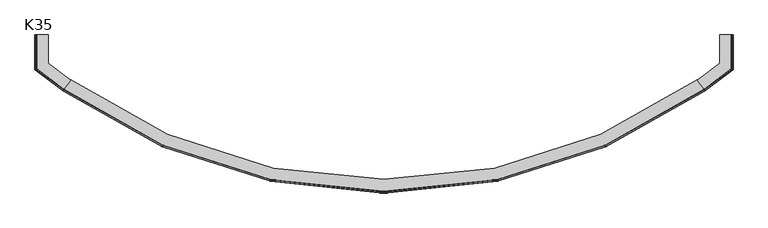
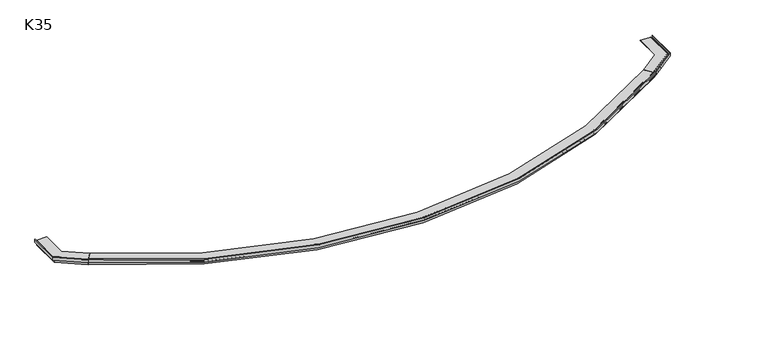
"""IFC4 building model written with IfcOpenShell, lengths in millimetres: proxy geometry, K35 Profil okapowy łukowy : K35."""

from ifc_helpers import new_model, si_unit, point, frame, origin, place, context, project, spatial, polyline, circle_curve, ellipse_curve, trimmed, source, transform, mapped, element, save
from ifc_brep_helpers import plane_surface, cylinder_surface, revolved_surface, advanced_brep


def k35_5c12baea(model_context):
    return source(origin(), model_context, "Body", "AdvancedBrep", [
        advanced_brep(
        [(4820.5444875, -150.7253532, 0.0), (4820.5444875, -150.7253532, -1.8358001), (4821.1473855, -151.5231715, -2.8358001), (4821.1473855, -151.5231715, -19.6829113), (4812.6237873, -140.2438468, -19.6829113), (4812.6237873, -140.2438468, -14.9), (4813.7035078, -141.6726468, -14.9), (4814.5489083, -142.7913701, -16.3022282), (4815.4550805, -143.9905127, -16.3022282), (4813.8750322, -141.8996261, -13.5), (4763.2088872, -74.8528356, -13.5), (4763.2088872, -74.8528356, -14.9), (4807.5218906, -133.4924785, -14.9), (4807.5218906, -133.4924785, -17.8969711), (4808.4262376, -134.6892059, -17.8969711), (4808.4262376, -134.6892059, -14.9), (4811.4407276, -138.6782973, -14.9), (4811.4407276, -138.6782973, -54.7), (4812.3450746, -139.8750247, -54.7), (4812.3450746, -139.8750247, -21.1829113), (4814.4848924, -142.7066575, -21.1829113), (4815.40527, -143.9245982, -22.7095005), (4815.40527, -143.9245982, -21.1829113), (4821.1473855, -151.5231715, -21.1829113), (4821.1473855, -151.5231715, -25.549015), (4822.0517325, -152.7198989, -26.8), (4822.0517325, -152.7198989, -2.8358001), (5020.0966281, 249.9999807, 0.0), (5022.5966279, 249.9990092, -2.8358001), (5022.5966279, 249.9990092, -26.8), (5021.096628, 249.9995921, -25.549015), (5021.096628, 249.9995921, -21.1829113), (5011.5724382, 250.0032932, -21.1829113), (5011.5724382, 250.0032932, -22.7095005), (5010.0458491, 250.0038864, -21.1829113), (5006.4966291, 250.0052656, -21.1829113), (5006.4966291, 250.0052656, -54.7), (5004.9966292, 250.0058485, -54.7), (5004.9966292, 250.0058485, -14.9), (4999.9966296, 250.0077915, -14.9), (4999.9966296, 250.0077915, -17.8969711), (4998.4966297, 250.0083744, -17.8969711), (4998.4966297, 250.0083744, -14.9), (4924.9966353, 250.036936, -14.9), (4924.9966353, 250.036936, -13.5), (5009.0343013, 250.0042795, -13.5), (5011.6550566, 250.0032611, -16.3022282), (5010.1520294, 250.0038451, -16.3022282), (5008.7498014, 250.00439, -14.9), (5006.9589174, 250.005086, -14.9), (5006.9589174, 250.005086, -19.6829113), (5021.096628, 249.9995921, -19.6829113), (5021.096628, 249.9995921, -2.8358001), (5020.0966281, 249.9999807, -1.8358001), (5022.4989958, -1.2452342, -2.8358001), (5019.9994793, -0.0005316, 0.0), (5022.4989958, -1.2452342, -26.8), (5020.9992859, -0.4984126, -25.549015), (5020.9992859, -0.4984126, -21.1829113), (5011.4769372, 4.2435013, -21.1829113), (5011.4769372, 4.2435013, -22.7095005), (5009.9506433, 5.0035611, -21.1829113), (5006.4021095, 6.7706506, -21.1829113), (5006.4021095, 6.7706506, -54.7), (5004.9023996, 7.5174722, -54.7), (5004.9023996, 7.5174722, -14.9), (4999.9033666, 10.0068774, -14.9), (4999.9033666, 10.0068774, -17.8969711), (4998.4036567, 10.7536989, -17.8969711), (4998.4036567, 10.7536989, -14.9), (4924.9178714, 47.3479557, -14.9), (4924.9178714, 47.3479557, -13.5), (5008.9392911, 5.5071916, -13.5), (5011.5595397, 4.2023671, -16.3022282), (5010.0568031, 4.9506959, -16.3022282), (5008.6548461, 5.6488388, -14.9), (5006.8643084, 6.540486, -14.9), (5006.8643084, 6.540486, -19.6829113), (5020.9992859, -0.4984126, -19.6829113), (5020.9992859, -0.4984126, -2.8358001), (5019.9994793, -0.0005316, -1.8358001)],
        [
            (0, 1),
            (1, 2, circle_curve(frame((4820.5444875, -150.7253532, -2.8358001), z_axis=(0.7978182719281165, 0.6028980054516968, 0.0), x_axis=(0.6028980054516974, -0.7978182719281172, 0.0)), 1.0)),
            (2, 3),
            (3, 4),
            (4, 5),
            (5, 6),
            (6, 7, circle_curve(frame((4813.7035078, -141.6726468, -16.3022282), z_axis=(0.7978182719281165, 0.6028980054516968, 0.0), x_axis=(-0.6028980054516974, 0.7978182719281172, 0.0)), 1.4022282)),
            (7, 8),
            (8, 9, circle_curve(frame((4813.8750322, -141.8996261, -16.1266316), z_axis=(-0.7978182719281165, -0.6028980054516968, 0.0), x_axis=(-0.6028980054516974, 0.7978182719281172, 0.0)), 2.6266316)),
            (9, 10),
            (10, 11),
            (11, 12),
            (12, 13),
            (13, 14),
            (14, 15),
            (15, 16),
            (16, 17),
            (17, 18),
            (18, 19),
            (19, 20),
            (20, 21),
            (21, 22),
            (22, 23),
            (23, 24),
            (24, 25),
            (25, 26),
            (26, 0, circle_curve(frame((4820.2973828, -150.3983582, -2.8812097), z_axis=(-0.7978182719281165, -0.6028980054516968, 0.0), x_axis=(0.6028980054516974, -0.7978182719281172, 0.0)), 2.9102158)),
            (27, 28, circle_curve(frame((5019.6867666, 250.00014, -2.8812097), z_axis=(0.0003885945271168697, 0.999999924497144, 0.0), x_axis=(0.9999999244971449, -0.00038859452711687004, 0.0)), 2.9102158)),
            (28, 29),
            (29, 30),
            (30, 31),
            (31, 32),
            (32, 33),
            (33, 34),
            (34, 35),
            (35, 36),
            (36, 37),
            (37, 38),
            (38, 39),
            (39, 40),
            (40, 41),
            (41, 42),
            (42, 43),
            (43, 44),
            (44, 45),
            (45, 46, circle_curve(frame((5009.0343013, 250.0042795, -16.1266316), z_axis=(0.0003885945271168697, 0.999999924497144, 0.0), x_axis=(-0.9999999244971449, 0.00038859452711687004, 0.0)), 2.6266316)),
            (46, 47),
            (47, 48, circle_curve(frame((5008.7498014, 250.00439, -16.3022282), z_axis=(-0.0003885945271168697, -0.999999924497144, 0.0), x_axis=(-0.9999999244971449, 0.00038859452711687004, 0.0)), 1.4022282)),
            (48, 49),
            (49, 50),
            (50, 51),
            (51, 52),
            (52, 53, circle_curve(frame((5020.0966281, 249.9999807, -2.8358001), z_axis=(-0.0003885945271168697, -0.999999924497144, 0.0), x_axis=(0.9999999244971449, -0.00038859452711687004, 0.0)), 1.0)),
            (53, 27),
            (26, 54),
            (54, 55, ellipse_curve(frame((5019.589697, 0.2035307, -2.8812097), z_axis=(-0.44576454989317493, -0.8951502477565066, 0.0), x_axis=(-0.8951502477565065, 0.44576454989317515, 0.0)), 3.2504632, 2.9102158)),
            (55, 0),
            (25, 56),
            (56, 54),
            (24, 57),
            (57, 56),
            (23, 58),
            (58, 57),
            (22, 59),
            (59, 32),
            (31, 58),
            (21, 60),
            (60, 59),
            (20, 61),
            (61, 60),
            (19, 62),
            (62, 35),
            (34, 61),
            (18, 63),
            (63, 62),
            (17, 64),
            (64, 37),
            (36, 63),
            (16, 65),
            (65, 64),
            (15, 66),
            (66, 39),
            (38, 65),
            (14, 67),
            (67, 66),
            (13, 68),
            (68, 41),
            (40, 67),
            (12, 69),
            (69, 68),
            (11, 70),
            (70, 43),
            (42, 69),
            (10, 71),
            (71, 70),
            (9, 72),
            (72, 45),
            (44, 71),
            (8, 73),
            (73, 72, ellipse_curve(frame((5008.9392911, 5.5071916, -16.1266316), z_axis=(-0.44576454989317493, -0.8951502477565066, 0.0), x_axis=(-0.8951502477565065, 0.44576454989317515, 0.0)), 2.9337238, 2.6266316)),
            (7, 74),
            (74, 47),
            (46, 73),
            (6, 75),
            (75, 74, ellipse_curve(frame((5008.6548461, 5.6488388, -16.3022282), z_axis=(0.44576454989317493, 0.8951502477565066, 0.0), x_axis=(0.8951502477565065, -0.44576454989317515, 0.0)), 1.5661695, 1.4022282)),
            (5, 76),
            (76, 49),
            (48, 75),
            (4, 77),
            (77, 76),
            (3, 78),
            (78, 51),
            (50, 77),
            (2, 79),
            (79, 78),
            (1, 80),
            (80, 79, ellipse_curve(frame((5019.9994793, -0.0005316, -2.8358001), z_axis=(0.44576454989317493, 0.8951502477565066, 0.0), x_axis=(0.8951502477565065, -0.44576454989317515, 0.0)), 1.1169148, 1.0)),
            (55, 80),
            (54, 28),
            (27, 55),
            (56, 29),
            (57, 30),
            (60, 33),
            (79, 52),
            (80, 53),
        ],
        [
            plane_surface(frame((4820.5438438, -150.7245014, 0.0), z_axis=(-0.7978182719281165, -0.6028980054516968, 0.0), x_axis=(0.0, 0.0, 1.0))),
            plane_surface(frame((5020.0955604, 249.9999811, 0.0), z_axis=(0.0003885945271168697, 0.999999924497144, 0.0), x_axis=(0.0, 0.0, 1.0))),
            cylinder_surface(frame((4820.2973828, -150.3983582, -2.8812097), z_axis=(-0.7978182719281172, -0.6028980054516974, 0.0), x_axis=(0.6028980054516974, -0.7978182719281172, 0.0)), 2.9102158),
            plane_surface(frame((4822.0517325, -152.7198989, -2.8358001), z_axis=(0.6028980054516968, -0.7978182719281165, 0.0), x_axis=(0.7978182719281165, 0.6028980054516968, 0.0))),
            plane_surface(frame((4822.0517325, -152.7198989, -26.8), z_axis=(-0.38614530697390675, 0.5109882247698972, -0.7679732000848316), x_axis=(0.7978182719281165, 0.6028980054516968, 0.0))),
            plane_surface(frame((4821.1473855, -151.5231715, -25.549015), z_axis=(-0.6028980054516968, 0.7978182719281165, 0.0), x_axis=(0.7978182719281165, 0.6028980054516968, 0.0))),
            plane_surface(frame((4815.882807, -144.5565256, -21.1829113), z_axis=(0.0, 0.0, -1.0000000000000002), x_axis=(0.7978182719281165, 0.6028980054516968, 0.0))),
            plane_surface(frame((4815.40527, -143.9245982, -21.1829113), z_axis=(0.6028980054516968, -0.7978182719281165, 0.0), x_axis=(0.7978182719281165, 0.6028980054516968, 0.0))),
            plane_surface(frame((4815.40527, -143.9245982, -22.7095005), z_axis=(-0.4263132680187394, 0.5641427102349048, -0.7071067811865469), x_axis=(0.7978182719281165, 0.6028980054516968, 0.0))),
            plane_surface(frame((4814.4848924, -142.7066575, -21.1829113), z_axis=(0.0, 0.0, -1.0000000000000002), x_axis=(0.7978182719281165, 0.6028980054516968, 0.0))),
            plane_surface(frame((4812.3450746, -139.8750247, -21.1829113), z_axis=(0.6028980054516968, -0.7978182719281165, 0.0), x_axis=(0.7978182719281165, 0.6028980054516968, 0.0))),
            plane_surface(frame((4812.3450746, -139.8750247, -54.7), z_axis=(0.0, 0.0, -1.0000000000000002), x_axis=(0.7978182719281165, 0.6028980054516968, 0.0))),
            plane_surface(frame((4811.4407276, -138.6782973, -54.7), z_axis=(-0.6028980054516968, 0.7978182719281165, 0.0), x_axis=(0.7978182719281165, 0.6028980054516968, 0.0))),
            plane_surface(frame((4811.4407276, -138.6782973, -14.9), z_axis=(0.0, 0.0, -1.0000000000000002), x_axis=(0.7978182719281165, 0.6028980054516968, 0.0))),
            plane_surface(frame((4808.4262376, -134.6892059, -14.9), z_axis=(0.6028980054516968, -0.7978182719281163, 0.0), x_axis=(0.7978182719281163, 0.6028980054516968, 0.0))),
            plane_surface(frame((4808.4262376, -134.6892059, -17.8969711), z_axis=(0.0, 0.0, -1.0000000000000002), x_axis=(0.7978182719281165, 0.6028980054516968, 0.0))),
            plane_surface(frame((4807.5218906, -133.4924785, -17.8969711), z_axis=(-0.6028980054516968, 0.7978182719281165, 0.0), x_axis=(0.7978182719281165, 0.6028980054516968, 0.0))),
            plane_surface(frame((4807.5218906, -133.4924785, -14.9), z_axis=(0.0, 0.0, -1.0000000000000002), x_axis=(0.7978182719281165, 0.6028980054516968, 0.0))),
            plane_surface(frame((4763.2088872, -74.8528356, -14.9), z_axis=(-0.6028980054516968, 0.7978182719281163, 0.0), x_axis=(0.7978182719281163, 0.6028980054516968, 0.0))),
            plane_surface(frame((4763.2088872, -74.8528356, -13.5), z_axis=(0.0, 0.0, 1.0), x_axis=(0.7978182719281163, 0.6028980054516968, 0.0))),
            cylinder_surface(frame((4813.8750322, -141.8996261, -16.1266316), z_axis=(-0.7978182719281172, -0.6028980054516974, 0.0), x_axis=(-0.6028980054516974, 0.7978182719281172, 0.0)), 2.6266316),
            plane_surface(frame((4815.4550805, -143.9905127, -16.3022282), z_axis=(0.0, 0.0, -1.0000000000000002), x_axis=(0.7978182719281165, 0.6028980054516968, 0.0))),
            revolved_surface(polyline([(5008.366001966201, 7.188142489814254, -16.3022282), (4812.858107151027, -140.55392356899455, -16.3022282)]), (4813.7035078, -141.6726468, -16.3022282), (0.7978182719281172, 0.6028980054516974, 0.0)),
            plane_surface(frame((4813.7035078, -141.6726468, -14.9), z_axis=(0.0, 0.0, -1.0000000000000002), x_axis=(0.7978182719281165, 0.6028980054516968, 0.0))),
            plane_surface(frame((4812.6237873, -140.2438468, -14.9), z_axis=(0.6028980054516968, -0.7978182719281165, 0.0), x_axis=(0.7978182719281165, 0.6028980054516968, 0.0))),
            plane_surface(frame((4820.5438438, -150.7245014, -19.6829113), z_axis=(0.0, 0.0, 1.0000000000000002), x_axis=(0.7978182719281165, 0.6028980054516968, 0.0))),
            plane_surface(frame((4821.1473855, -151.5231715, -19.6829113), z_axis=(-0.6028980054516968, 0.7978182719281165, 0.0), x_axis=(0.7978182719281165, 0.6028980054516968, 0.0))),
            revolved_surface(polyline([(5020.999285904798, -0.4984126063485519, -2.8358001), (4821.147385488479, -151.5231714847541, -2.8358001)]), (4820.5444875, -150.7253532, -2.8358001), (0.7978182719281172, 0.6028980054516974, 0.0)),
            plane_surface(frame((4820.5444875, -150.7253532, -1.8358001), z_axis=(-0.6028980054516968, 0.7978182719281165, 0.0), x_axis=(0.7978182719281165, 0.6028980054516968, 0.0))),
            cylinder_surface(frame((5019.589618, 0.0001589, -2.8812097), z_axis=(-0.00038859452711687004, -0.9999999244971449, 0.0), x_axis=(0.9999999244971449, -0.00038859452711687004, 0.0)), 2.9102158),
            plane_surface(frame((5022.4989958, -1.2452342, -2.8358001), z_axis=(0.999999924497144, -0.00038859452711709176, 0.0), x_axis=(0.00038859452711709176, 0.999999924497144, 0.0))),
            plane_surface(frame((5022.4989958, -1.2452342, -26.8), z_axis=(-0.6404819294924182, 0.00024888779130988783, -0.7679732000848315), x_axis=(0.00038859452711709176, 0.999999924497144, 0.0))),
            plane_surface(frame((5020.9992859, -0.4984126, -25.549015), z_axis=(-0.999999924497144, 0.0003885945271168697, 0.0), x_axis=(0.0003885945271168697, 0.999999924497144, 0.0))),
            plane_surface(frame((5011.4769372, 4.2435013, -21.1829113), z_axis=(0.999999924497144, -0.0003885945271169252, 0.0), x_axis=(0.0003885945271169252, 0.999999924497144, 0.0))),
            plane_surface(frame((5011.4769372, 4.2435013, -22.7095005), z_axis=(-0.7071067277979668, 0.00027477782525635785, -0.7071067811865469), x_axis=(0.0003885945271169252, 0.999999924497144, 0.0))),
            plane_surface(frame((5006.4021095, 6.7706506, -21.1829113), z_axis=(0.999999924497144, -0.0003885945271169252, 0.0), x_axis=(0.0003885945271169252, 0.999999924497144, 0.0))),
            plane_surface(frame((5004.9023996, 7.5174722, -54.7), z_axis=(-0.999999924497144, 0.0003885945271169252, 0.0), x_axis=(0.0003885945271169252, 0.999999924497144, 0.0))),
            plane_surface(frame((4999.9033666, 10.0068774, -14.9), z_axis=(0.999999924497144, -0.0003885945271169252, 0.0), x_axis=(0.0003885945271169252, 0.999999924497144, 0.0))),
            plane_surface(frame((4998.4036567, 10.7536989, -17.8969711), z_axis=(-0.999999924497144, 0.0003885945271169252, 0.0), x_axis=(0.0003885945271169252, 0.999999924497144, 0.0))),
            plane_surface(frame((4924.9178714, 47.3479557, -14.9), z_axis=(-0.999999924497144, 0.00038859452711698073, 0.0), x_axis=(0.00038859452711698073, 0.999999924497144, 0.0))),
            cylinder_surface(frame((5008.9371527, 0.0042983, -16.1266316), z_axis=(-0.00038859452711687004, -0.9999999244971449, 0.0), x_axis=(-0.9999999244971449, 0.00038859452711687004, 0.0)), 2.6266316),
            revolved_surface(polyline([(5007.347573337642, 250.00493489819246, -16.3022282), (5007.252347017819, 4.951785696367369, -16.3022282)]), (5008.6526528, 0.0044089, -16.3022282), (0.00038859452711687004, 0.9999999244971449, 0.0)),
            plane_surface(frame((5006.8643084, 6.540486, -14.9), z_axis=(0.999999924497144, -0.00038859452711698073, 0.0), x_axis=(0.00038859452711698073, 0.999999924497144, 0.0))),
            plane_surface(frame((5020.9992859, -0.4984126, -19.6829113), z_axis=(-0.999999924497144, 0.0003885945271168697, 0.0), x_axis=(0.0003885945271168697, 0.999999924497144, 0.0))),
            revolved_surface(polyline([(5021.096628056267, 249.99959210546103, -2.8358001), (5020.999285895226, -0.49841262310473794, -2.8358001)]), (5019.9994795, -4e-07, -2.8358001), (0.00038859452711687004, 0.9999999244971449, 0.0)),
            plane_surface(frame((5019.9994793, -0.0005316, -1.8358001), z_axis=(-0.999999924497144, 0.0003885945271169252, 0.0), x_axis=(0.0003885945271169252, 0.999999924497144, 0.0))),
        ],
        [
            (0, [[1, 2, 3, 4, 5, 6, 7, 8, 9, 10, 11, 12, 13, 14, 15, 16, 17, 18, 19, 20, 21, 22, 23, 24, 25, 26, 27]]),
            (1, [[28, 29, 30, 31, 32, 33, 34, 35, 36, 37, 38, 39, 40, 41, 42, 43, 44, 45, 46, 47, 48, 49, 50, 51, 52, 53, 54]]),
            (2, [[55, 56, 57, -27]]),
            (3, [[58, 59, -55, -26]]),
            (4, [[60, 61, -58, -25]]),
            (5, [[62, 63, -60, -24]]),
            (6, [[-23, 64, 65, -32, 66, -62]]),
            (7, [[67, 68, -64, -22]]),
            (8, [[69, 70, -67, -21]]),
            (9, [[71, 72, -35, 73, -69, -20]]),
            (10, [[74, 75, -71, -19]]),
            (11, [[76, 77, -37, 78, -74, -18]]),
            (12, [[79, 80, -76, -17]]),
            (13, [[81, 82, -39, 83, -79, -16]]),
            (14, [[84, 85, -81, -15]]),
            (15, [[86, 87, -41, 88, -84, -14]]),
            (16, [[89, 90, -86, -13]]),
            (17, [[91, 92, -43, 93, -89, -12]]),
            (18, [[94, 95, -91, -11]]),
            (19, [[96, 97, -45, 98, -94, -10]]),
            (20, [[99, 100, -96, -9]]),
            (21, [[101, 102, -47, 103, -99, -8]]),
            (22, [[104, 105, -101, -7]]),
            (23, [[106, 107, -49, 108, -104, -6]]),
            (24, [[109, 110, -106, -5]]),
            (25, [[-4, 111, 112, -51, 113, -109]]),
            (26, [[114, 115, -111, -3]]),
            (27, [[116, 117, -114, -2]]),
            (28, [[-57, 118, -116, -1]]),
            (29, [[119, -28, 120, -56]]),
            (30, [[121, -29, -119, -59]]),
            (31, [[122, -30, -121, -61]]),
            (32, [[-66, -31, -122, -63]]),
            (33, [[123, -33, -65, -68]]),
            (34, [[-73, -34, -123, -70]]),
            (35, [[-78, -36, -72, -75]]),
            (36, [[-83, -38, -77, -80]]),
            (37, [[-88, -40, -82, -85]]),
            (38, [[-93, -42, -87, -90]]),
            (39, [[-98, -44, -92, -95]]),
            (40, [[-103, -46, -97, -100]]),
            (41, [[-108, -48, -102, -105]]),
            (42, [[-113, -50, -107, -110]]),
            (43, [[124, -52, -112, -115]]),
            (44, [[125, -53, -124, -117]]),
            (45, [[-120, -54, -125, -118]]),
        ],
    ),
        advanced_brep(
        [(199.4539858, -150.7253997, 0.0), (197.9467408, -152.7199454, -2.8358001), (197.9467408, -152.7199454, -26.8), (198.8510878, -151.523218, -25.549015), (198.8510878, -151.523218, -21.1829113), (204.5932033, -143.9246447, -21.1829113), (204.5932033, -143.9246447, -22.7095005), (205.5135808, -142.706704, -21.1829113), (207.6533987, -139.8750712, -21.1829113), (207.6533987, -139.8750712, -54.7), (208.5577457, -138.6783438, -54.7), (208.5577457, -138.6783438, -14.9), (211.5722357, -134.6892525, -14.9), (211.5722357, -134.6892525, -17.8969711), (212.4765827, -133.492525, -17.8969711), (212.4765827, -133.492525, -14.9), (256.7895861, -74.8528821, -14.9), (256.7895861, -74.8528821, -13.5), (206.123441, -141.8996726, -13.5), (204.5433928, -143.9905592, -16.3022282), (205.4495649, -142.7914166, -16.3022282), (206.2949655, -141.6726933, -14.9), (207.3746859, -140.2438933, -14.9), (207.3746859, -140.2438933, -19.6829113), (198.8510878, -151.523218, -19.6829113), (198.8510878, -151.523218, -2.8358001), (199.4539858, -150.7253997, -1.8358001), (-0.0981548, 249.9999342, 0.0), (-0.0981548, 249.9999342, -1.8358001), (-1.0981547, 249.9995456, -2.8358001), (-1.0981547, 249.9995456, -19.6829113), (13.0395559, 250.0050394, -19.6829113), (13.0395559, 250.0050394, -14.9), (11.2486719, 250.0043435, -14.9), (9.8464438, 250.0037986, -16.3022282), (8.3434167, 250.0032146, -16.3022282), (10.964172, 250.004233, -13.5), (95.001838, 250.0368895, -13.5), (95.001838, 250.0368895, -14.9), (21.5018436, 250.0083278, -14.9), (21.5018436, 250.0083278, -17.8969711), (20.0018437, 250.007745, -17.8969711), (20.0018437, 250.007745, -14.9), (15.001844, 250.005802, -14.9), (15.001844, 250.005802, -54.7), (13.5018442, 250.0052191, -54.7), (13.5018442, 250.0052191, -21.1829113), (9.9526242, 250.0038399, -21.1829113), (8.4260351, 250.0032467, -22.7095005), (8.4260351, 250.0032467, -21.1829113), (-1.0981547, 249.9995456, -21.1829113), (-1.0981547, 249.9995456, -25.549015), (-2.5981546, 249.9989627, -26.8), (-2.5981546, 249.9989627, -2.8358001), (-0.001006, -0.0005781, 0.0), (-2.5005225, -1.2452807, -2.8358001), (-2.5005225, -1.2452807, -26.8), (-1.0008126, -0.4984591, -25.549015), (-1.0008126, -0.4984591, -21.1829113), (8.521536, 4.2434548, -21.1829113), (8.521536, 4.2434548, -22.7095005), (10.04783, 5.0035146, -21.1829113), (13.5963638, 6.7706041, -21.1829113), (13.5963638, 6.7706041, -54.7), (15.0960737, 7.5174257, -54.7), (15.0960737, 7.5174257, -14.9), (20.0951067, 10.0068309, -14.9), (20.0951067, 10.0068309, -17.8969711), (21.5948166, 10.7536524, -17.8969711), (21.5948166, 10.7536524, -14.9), (95.0806018, 47.3479092, -14.9), (95.0806018, 47.3479092, -13.5), (11.0591822, 5.5071451, -13.5), (8.4389336, 4.2023206, -16.3022282), (9.9416702, 4.9506494, -16.3022282), (11.3436271, 5.6487923, -14.9), (13.1341649, 6.5404395, -14.9), (13.1341649, 6.5404395, -19.6829113), (-1.0008126, -0.4984591, -19.6829113), (-1.0008126, -0.4984591, -2.8358001), (-0.001006, -0.0005781, -1.8358001)],
        [
            (0, 1, circle_curve(frame((199.7010905, -150.3984047, -2.8812097), z_axis=(0.7978182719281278, -0.6028980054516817, 0.0), x_axis=(-0.6028980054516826, -0.797818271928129, 0.0)), 2.9102158)),
            (1, 2),
            (2, 3),
            (3, 4),
            (4, 5),
            (5, 6),
            (6, 7),
            (7, 8),
            (8, 9),
            (9, 10),
            (10, 11),
            (11, 12),
            (12, 13),
            (13, 14),
            (14, 15),
            (15, 16),
            (16, 17),
            (17, 18),
            (18, 19, circle_curve(frame((206.123441, -141.8996726, -16.1266316), z_axis=(0.7978182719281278, -0.6028980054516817, 0.0), x_axis=(0.6028980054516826, 0.797818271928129, 0.0)), 2.6266316)),
            (19, 20),
            (20, 21, circle_curve(frame((206.2949655, -141.6726933, -16.3022282), z_axis=(-0.7978182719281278, 0.6028980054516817, 0.0), x_axis=(0.6028980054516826, 0.797818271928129, 0.0)), 1.4022282)),
            (21, 22),
            (22, 23),
            (23, 24),
            (24, 25),
            (25, 26, circle_curve(frame((199.4539858, -150.7253997, -2.8358001), z_axis=(-0.7978182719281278, 0.6028980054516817, 0.0), x_axis=(-0.6028980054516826, -0.797818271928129, 0.0)), 1.0)),
            (26, 0),
            (27, 28),
            (28, 29, circle_curve(frame((-0.0981548, 249.9999342, -2.8358001), z_axis=(0.00038859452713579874, -0.9999999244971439, 0.0), x_axis=(-0.9999999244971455, -0.00038859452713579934, 0.0)), 1.0)),
            (29, 30),
            (30, 31),
            (31, 32),
            (32, 33),
            (33, 34, circle_curve(frame((11.2486719, 250.0043435, -16.3022282), z_axis=(0.00038859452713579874, -0.9999999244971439, 0.0), x_axis=(0.9999999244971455, 0.00038859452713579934, 0.0)), 1.4022282)),
            (34, 35),
            (35, 36, circle_curve(frame((10.964172, 250.004233, -16.1266316), z_axis=(-0.00038859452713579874, 0.9999999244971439, 0.0), x_axis=(0.9999999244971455, 0.00038859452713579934, 0.0)), 2.6266316)),
            (36, 37),
            (37, 38),
            (38, 39),
            (39, 40),
            (40, 41),
            (41, 42),
            (42, 43),
            (43, 44),
            (44, 45),
            (45, 46),
            (46, 47),
            (47, 48),
            (48, 49),
            (49, 50),
            (50, 51),
            (51, 52),
            (52, 53),
            (53, 27, circle_curve(frame((0.3117067, 250.0000935, -2.8812097), z_axis=(-0.00038859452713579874, 0.9999999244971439, 0.0), x_axis=(-0.9999999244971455, -0.00038859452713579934, 0.0)), 2.9102158)),
            (0, 54),
            (54, 55, ellipse_curve(frame((0.4087763, 0.2034842, -2.8812097), z_axis=(0.44576454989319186, -0.8951502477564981, 0.0), x_axis=(0.8951502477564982, 0.44576454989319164, 0.0)), 3.2504632, 2.9102158)),
            (55, 1),
            (55, 56),
            (56, 2),
            (56, 57),
            (57, 3),
            (57, 58),
            (58, 4),
            (58, 50),
            (49, 59),
            (59, 5),
            (59, 60),
            (60, 6),
            (60, 61),
            (61, 7),
            (61, 47),
            (46, 62),
            (62, 8),
            (62, 63),
            (63, 9),
            (63, 45),
            (44, 64),
            (64, 10),
            (64, 65),
            (65, 11),
            (65, 43),
            (42, 66),
            (66, 12),
            (66, 67),
            (67, 13),
            (67, 41),
            (40, 68),
            (68, 14),
            (68, 69),
            (69, 15),
            (69, 39),
            (38, 70),
            (70, 16),
            (70, 71),
            (71, 17),
            (71, 37),
            (36, 72),
            (72, 18),
            (72, 73, ellipse_curve(frame((11.0591822, 5.5071451, -16.1266316), z_axis=(0.44576454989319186, -0.8951502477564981, 0.0), x_axis=(0.8951502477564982, 0.44576454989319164, 0.0)), 2.9337238, 2.6266316)),
            (73, 19),
            (73, 35),
            (34, 74),
            (74, 20),
            (74, 75, ellipse_curve(frame((11.3436271, 5.6487923, -16.3022282), z_axis=(-0.44576454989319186, 0.8951502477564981, 0.0), x_axis=(-0.8951502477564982, -0.44576454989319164, 0.0)), 1.5661695, 1.4022282)),
            (75, 21),
            (75, 33),
            (32, 76),
            (76, 22),
            (76, 77),
            (77, 23),
            (77, 31),
            (30, 78),
            (78, 24),
            (78, 79),
            (79, 25),
            (79, 80, ellipse_curve(frame((-0.001006, -0.0005781, -2.8358001), z_axis=(-0.44576454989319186, 0.8951502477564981, 0.0), x_axis=(-0.8951502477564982, -0.44576454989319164, 0.0)), 1.1169148, 1.0)),
            (80, 26),
            (80, 54),
            (54, 27),
            (53, 55),
            (52, 56),
            (51, 57),
            (48, 60),
            (29, 79),
            (28, 80),
        ],
        [
            plane_surface(frame((199.4546295, -150.7245479, 0.0), z_axis=(0.7978182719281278, -0.6028980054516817, 0.0), x_axis=(0.0, 0.0, 1.0))),
            plane_surface(frame((-0.0970871, 249.9999346, 0.0), z_axis=(-0.00038859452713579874, 0.9999999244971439, 0.0), x_axis=(0.0, 0.0, 1.0))),
            cylinder_surface(frame((199.7010905, -150.3984047, -2.8812097), z_axis=(0.797818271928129, -0.6028980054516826, 0.0), x_axis=(-0.6028980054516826, -0.797818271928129, 0.0)), 2.9102158),
            plane_surface(frame((197.9467408, -152.7199454, -2.8358001), z_axis=(-0.6028980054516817, -0.7978182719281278, 0.0), x_axis=(-0.7978182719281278, 0.6028980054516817, 0.0))),
            plane_surface(frame((197.9467408, -152.7199454, -26.8), z_axis=(0.38614530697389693, 0.5109882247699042, -0.7679732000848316), x_axis=(-0.7978182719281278, 0.6028980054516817, 0.0))),
            plane_surface(frame((198.8510878, -151.523218, -25.549015), z_axis=(0.6028980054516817, 0.7978182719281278, 0.0), x_axis=(-0.7978182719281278, 0.6028980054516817, 0.0))),
            plane_surface(frame((204.1156663, -144.5565721, -21.1829113), z_axis=(0.0, 0.0, -1.0000000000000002), x_axis=(-0.7978182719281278, 0.6028980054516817, 0.0))),
            plane_surface(frame((204.5932033, -143.9246447, -21.1829113), z_axis=(-0.6028980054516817, -0.7978182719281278, 0.0), x_axis=(-0.7978182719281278, 0.6028980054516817, 0.0))),
            plane_surface(frame((204.5932033, -143.9246447, -22.7095005), z_axis=(0.42631326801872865, 0.5641427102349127, -0.707106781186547), x_axis=(-0.7978182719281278, 0.6028980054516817, 0.0))),
            plane_surface(frame((205.5135808, -142.706704, -21.1829113), z_axis=(0.0, 0.0, -1.0000000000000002), x_axis=(-0.7978182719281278, 0.6028980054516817, 0.0))),
            plane_surface(frame((207.6533987, -139.8750712, -21.1829113), z_axis=(-0.6028980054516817, -0.7978182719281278, 0.0), x_axis=(-0.7978182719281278, 0.6028980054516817, 0.0))),
            plane_surface(frame((207.6533987, -139.8750712, -54.7), z_axis=(0.0, 0.0, -1.0000000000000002), x_axis=(-0.7978182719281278, 0.6028980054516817, 0.0))),
            plane_surface(frame((208.5577457, -138.6783438, -54.7), z_axis=(0.6028980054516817, 0.7978182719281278, 0.0), x_axis=(-0.7978182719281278, 0.6028980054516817, 0.0))),
            plane_surface(frame((208.5577457, -138.6783438, -14.9), z_axis=(0.0, 0.0, -1.0000000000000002), x_axis=(-0.7978182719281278, 0.6028980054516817, 0.0))),
            plane_surface(frame((211.5722357, -134.6892525, -14.9), z_axis=(-0.6028980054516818, -0.7978182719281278, 0.0), x_axis=(-0.7978182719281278, 0.6028980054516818, 0.0))),
            plane_surface(frame((211.5722357, -134.6892525, -17.8969711), z_axis=(0.0, 0.0, -1.0000000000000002), x_axis=(-0.7978182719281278, 0.6028980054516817, 0.0))),
            plane_surface(frame((212.4765827, -133.492525, -17.8969711), z_axis=(0.6028980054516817, 0.7978182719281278, 0.0), x_axis=(-0.7978182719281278, 0.6028980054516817, 0.0))),
            plane_surface(frame((212.4765827, -133.492525, -14.9), z_axis=(0.0, 0.0, -1.0000000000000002), x_axis=(-0.7978182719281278, 0.6028980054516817, 0.0))),
            plane_surface(frame((256.7895861, -74.8528821, -14.9), z_axis=(0.6028980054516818, 0.7978182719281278, 0.0), x_axis=(-0.7978182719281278, 0.6028980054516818, 0.0))),
            plane_surface(frame((256.7895861, -74.8528821, -13.5), z_axis=(0.0, 0.0, 1.0000000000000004), x_axis=(-0.7978182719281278, 0.6028980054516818, 0.0))),
            cylinder_surface(frame((206.123441, -141.8996726, -16.1266316), z_axis=(0.797818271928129, -0.6028980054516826, 0.0), x_axis=(0.6028980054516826, 0.797818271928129, 0.0)), 2.6266316),
            plane_surface(frame((204.5433928, -143.9905592, -16.3022282), z_axis=(0.0, 0.0, -1.0000000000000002), x_axis=(-0.7978182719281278, 0.6028980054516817, 0.0))),
            revolved_surface(polyline([(11.63247127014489, 7.188096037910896, -16.3022282), (207.1403660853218, -140.55397002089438, -16.3022282)]), (206.2949655, -141.6726933, -16.3022282), (-0.797818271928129, 0.6028980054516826, 0.0)),
            plane_surface(frame((206.2949655, -141.6726933, -14.9), z_axis=(0.0, 0.0, -1.0000000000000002), x_axis=(-0.7978182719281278, 0.6028980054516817, 0.0))),
            plane_surface(frame((207.3746859, -140.2438933, -14.9), z_axis=(-0.6028980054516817, -0.7978182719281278, 0.0), x_axis=(-0.7978182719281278, 0.6028980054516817, 0.0))),
            plane_surface(frame((199.4546295, -150.7245479, -19.6829113), z_axis=(0.0, 0.0, 1.0000000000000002), x_axis=(-0.7978182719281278, 0.6028980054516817, 0.0))),
            plane_surface(frame((198.8510878, -151.523218, -19.6829113), z_axis=(0.6028980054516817, 0.7978182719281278, 0.0), x_axis=(-0.7978182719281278, 0.6028980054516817, 0.0))),
            revolved_surface(polyline([(-1.00081260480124, -0.49845910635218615, -2.8358001), (198.85108781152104, -151.52321798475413, -2.8358001)]), (199.4539858, -150.7253997, -2.8358001), (-0.797818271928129, 0.6028980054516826, 0.0)),
            plane_surface(frame((199.4539858, -150.7253997, -1.8358001), z_axis=(0.6028980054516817, 0.7978182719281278, 0.0), x_axis=(-0.7978182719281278, 0.6028980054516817, 0.0))),
            cylinder_surface(frame((0.4088553, 0.0001124, -2.8812097), z_axis=(0.00038859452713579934, -0.9999999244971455, 0.0), x_axis=(-0.9999999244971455, -0.00038859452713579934, 0.0)), 2.9102158),
            plane_surface(frame((-2.5005225, -1.2452807, -2.8358001), z_axis=(-0.999999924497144, -0.0003885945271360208, 0.0), x_axis=(-0.0003885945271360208, 0.999999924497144, 0.0))),
            plane_surface(frame((-2.5005225, -1.2452807, -26.8), z_axis=(0.640481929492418, 0.00024888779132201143, -0.7679732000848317), x_axis=(-0.0003885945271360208, 0.999999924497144, 0.0))),
            plane_surface(frame((-1.0008126, -0.4984591, -25.549015), z_axis=(0.9999999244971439, 0.00038859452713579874, 0.0), x_axis=(-0.00038859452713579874, 0.9999999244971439, 0.0))),
            plane_surface(frame((8.521536, 4.2434548, -21.1829113), z_axis=(-0.999999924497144, -0.00038859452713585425, 0.0), x_axis=(-0.00038859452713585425, 0.999999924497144, 0.0))),
            plane_surface(frame((8.521536, 4.2434548, -22.7095005), z_axis=(0.7071067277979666, 0.0002747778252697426, -0.707106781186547), x_axis=(-0.00038859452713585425, 0.999999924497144, 0.0))),
            plane_surface(frame((13.5963638, 6.7706041, -21.1829113), z_axis=(-0.999999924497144, -0.00038859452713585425, 0.0), x_axis=(-0.00038859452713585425, 0.999999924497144, 0.0))),
            plane_surface(frame((15.0960737, 7.5174257, -54.7), z_axis=(0.999999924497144, 0.00038859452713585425, 0.0), x_axis=(-0.00038859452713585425, 0.999999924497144, 0.0))),
            plane_surface(frame((20.0951067, 10.0068309, -14.9), z_axis=(-0.999999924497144, -0.00038859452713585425, 0.0), x_axis=(-0.00038859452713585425, 0.999999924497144, 0.0))),
            plane_surface(frame((21.5948166, 10.7536524, -17.8969711), z_axis=(0.999999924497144, 0.00038859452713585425, 0.0), x_axis=(-0.00038859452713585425, 0.999999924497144, 0.0))),
            plane_surface(frame((95.0806018, 47.3479092, -14.9), z_axis=(0.9999999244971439, 0.00038859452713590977, 0.0), x_axis=(-0.00038859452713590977, 0.9999999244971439, 0.0))),
            cylinder_surface(frame((11.0613206, 0.0042518, -16.1266316), z_axis=(0.00038859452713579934, -0.9999999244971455, 0.0), x_axis=(0.9999999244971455, 0.00038859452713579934, 0.0)), 2.6266316),
            revolved_surface(polyline([(12.650899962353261, 250.00488839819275, -16.3022282), (12.746126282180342, 4.951739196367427, -16.3022282)]), (11.3458205, 0.0043624, -16.3022282), (-0.00038859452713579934, 0.9999999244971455, 0.0)),
            plane_surface(frame((13.1341649, 6.5404395, -14.9), z_axis=(-0.9999999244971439, -0.00038859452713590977, 0.0), x_axis=(-0.00038859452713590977, 0.9999999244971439, 0.0))),
            plane_surface(frame((-1.0008126, -0.4984591, -19.6829113), z_axis=(0.9999999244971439, 0.00038859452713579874, 0.0), x_axis=(-0.00038859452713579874, 0.9999999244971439, 0.0))),
            revolved_surface(polyline([(-1.0981547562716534, 249.99954560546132, -2.8358001), (-1.000812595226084, -0.4984591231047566, -2.8358001)]), (-0.0010062, -4.69e-05, -2.8358001), (-0.00038859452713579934, 0.9999999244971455, 0.0)),
            plane_surface(frame((-0.001006, -0.0005781, -1.8358001), z_axis=(0.999999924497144, 0.00038859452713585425, 0.0), x_axis=(-0.00038859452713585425, 0.999999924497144, 0.0))),
        ],
        [
            (0, [[1, 2, 3, 4, 5, 6, 7, 8, 9, 10, 11, 12, 13, 14, 15, 16, 17, 18, 19, 20, 21, 22, 23, 24, 25, 26, 27]]),
            (1, [[28, 29, 30, 31, 32, 33, 34, 35, 36, 37, 38, 39, 40, 41, 42, 43, 44, 45, 46, 47, 48, 49, 50, 51, 52, 53, 54]]),
            (2, [[-1, 55, 56, 57]]),
            (3, [[-2, -57, 58, 59]]),
            (4, [[-3, -59, 60, 61]]),
            (5, [[-4, -61, 62, 63]]),
            (6, [[-63, 64, -50, 65, 66, -5]]),
            (7, [[-6, -66, 67, 68]]),
            (8, [[-7, -68, 69, 70]]),
            (9, [[-8, -70, 71, -47, 72, 73]]),
            (10, [[-9, -73, 74, 75]]),
            (11, [[-10, -75, 76, -45, 77, 78]]),
            (12, [[-11, -78, 79, 80]]),
            (13, [[-12, -80, 81, -43, 82, 83]]),
            (14, [[-13, -83, 84, 85]]),
            (15, [[-14, -85, 86, -41, 87, 88]]),
            (16, [[-15, -88, 89, 90]]),
            (17, [[-16, -90, 91, -39, 92, 93]]),
            (18, [[-17, -93, 94, 95]]),
            (19, [[-18, -95, 96, -37, 97, 98]]),
            (20, [[-19, -98, 99, 100]]),
            (21, [[-20, -100, 101, -35, 102, 103]]),
            (22, [[-21, -103, 104, 105]]),
            (23, [[-22, -105, 106, -33, 107, 108]]),
            (24, [[-23, -108, 109, 110]]),
            (25, [[-110, 111, -31, 112, 113, -24]]),
            (26, [[-25, -113, 114, 115]]),
            (27, [[-26, -115, 116, 117]]),
            (28, [[-27, -117, 118, -55]]),
            (29, [[-56, 119, -54, 120]]),
            (30, [[-58, -120, -53, 121]]),
            (31, [[-60, -121, -52, 122]]),
            (32, [[-62, -122, -51, -64]]),
            (33, [[-67, -65, -49, 123]]),
            (34, [[-69, -123, -48, -71]]),
            (35, [[-74, -72, -46, -76]]),
            (36, [[-79, -77, -44, -81]]),
            (37, [[-84, -82, -42, -86]]),
            (38, [[-89, -87, -40, -91]]),
            (39, [[-94, -92, -38, -96]]),
            (40, [[-99, -97, -36, -101]]),
            (41, [[-104, -102, -34, -106]]),
            (42, [[-109, -107, -32, -111]]),
            (43, [[-114, -112, -30, 124]]),
            (44, [[-116, -124, -29, 125]]),
            (45, [[-118, -125, -28, -119]]),
        ],
    ),
        advanced_brep(
        [(199.5607027, -150.7869268, 0.0), (199.5607027, -150.7869268, -1.8358001), (198.9830932, -151.6032401, -2.8358001), (198.9830932, -151.6032401, -19.6829113), (207.1491694, -140.0624389, -19.6829113), (207.1491694, -140.0624389, -14.9), (206.1147378, -141.5243613, -14.9), (205.3047975, -142.6690187, -16.3022282), (204.4366347, -143.8959598, -16.3022282), (205.9504079, -141.7566024, -13.5), (254.4913634, -73.1555381, -13.5), (254.4913634, -73.1555381, -14.9), (212.0370673, -133.1545609, -14.9), (212.0370673, -133.1545609, -17.8969711), (211.1706531, -134.3790308, -17.8969711), (211.1706531, -134.3790308, -14.9), (208.2826057, -138.460597, -14.9), (208.2826057, -138.460597, -54.7), (207.4161915, -139.6850668, -54.7), (207.4161915, -139.6850668, -21.1829113), (205.3661283, -142.5823423, -21.1829113), (204.4843559, -143.8285172, -22.7095005), (204.4843559, -143.8285172, -21.1829113), (198.9830932, -151.6032401, -21.1829113), (198.9830932, -151.6032401, -25.549015), (198.116679, -152.8277099, -26.8), (198.116679, -152.8277099, -2.8358001), (4820.4377091, -150.7869268, 0.0), (4821.8817327, -152.8277099, -2.8358001), (4821.8817327, -152.8277099, -26.8), (4821.0153185, -151.6032401, -25.549015), (4821.0153185, -151.6032401, -21.1829113), (4815.5140558, -143.8285172, -21.1829113), (4815.5140558, -143.8285172, -22.7095005), (4814.6322835, -142.5823423, -21.1829113), (4812.5822202, -139.6850668, -21.1829113), (4812.5822202, -139.6850668, -54.7), (4811.715806, -138.460597, -54.7), (4811.715806, -138.460597, -14.9), (4808.8277587, -134.3790308, -14.9), (4808.8277587, -134.3790308, -17.8969711), (4807.9613445, -133.1545609, -17.8969711), (4807.9613445, -133.1545609, -14.9), (4765.5070483, -73.1555381, -14.9), (4765.5070483, -73.1555381, -13.5), (4814.0480038, -141.7566024, -13.5), (4815.561777, -143.8959598, -16.3022282), (4814.6936142, -142.6690187, -16.3022282), (4813.883674, -141.5243613, -14.9), (4812.8492424, -140.0624389, -14.9), (4812.8492424, -140.0624389, -19.6829113), (4821.0153185, -151.6032401, -19.6829113), (4821.0153185, -151.6032401, -2.8358001), (4820.4377091, -150.7869268, -1.8358001)],
        [
            (0, 1),
            (1, 2, circle_curve(frame((199.5607027, -150.7869268, -2.8358001), z_axis=(0.8163132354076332, -0.5776094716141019, 0.0), x_axis=(-0.5776094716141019, -0.8163132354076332, 0.0)), 1.0)),
            (2, 3),
            (3, 4),
            (4, 5),
            (5, 6),
            (6, 7, circle_curve(frame((206.1147378, -141.5243613, -16.3022282), z_axis=(0.8163132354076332, -0.5776094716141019, 0.0), x_axis=(0.5776094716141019, 0.8163132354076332, 0.0)), 1.4022282)),
            (7, 8),
            (8, 9, circle_curve(frame((205.9504079, -141.7566024, -16.1266316), z_axis=(-0.8163132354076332, 0.5776094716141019, 0.0), x_axis=(0.5776094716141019, 0.8163132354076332, 0.0)), 2.6266316)),
            (9, 10),
            (10, 11),
            (11, 12),
            (12, 13),
            (13, 14),
            (14, 15),
            (15, 16),
            (16, 17),
            (17, 18),
            (18, 19),
            (19, 20),
            (20, 21),
            (21, 22),
            (22, 23),
            (23, 24),
            (24, 25),
            (25, 26),
            (26, 0, circle_curve(frame((199.7974426, -150.4523514, -2.8812097), z_axis=(-0.8163132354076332, 0.5776094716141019, 0.0), x_axis=(-0.5776094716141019, -0.8163132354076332, 0.0)), 2.9102158)),
            (27, 28, circle_curve(frame((4820.2009692, -150.4523514, -2.8812097), z_axis=(0.8163132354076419, 0.5776094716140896, 0.0), x_axis=(0.5776094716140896, -0.8163132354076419, 0.0)), 2.9102158)),
            (28, 29),
            (29, 30),
            (30, 31),
            (31, 32),
            (32, 33),
            (33, 34),
            (34, 35),
            (35, 36),
            (36, 37),
            (37, 38),
            (38, 39),
            (39, 40),
            (40, 41),
            (41, 42),
            (42, 43),
            (43, 44),
            (44, 45),
            (45, 46, circle_curve(frame((4814.0480038, -141.7566024, -16.1266316), z_axis=(0.8163132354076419, 0.5776094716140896, 0.0), x_axis=(-0.5776094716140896, 0.8163132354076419, 0.0)), 2.6266316)),
            (46, 47),
            (47, 48, circle_curve(frame((4813.883674, -141.5243613, -16.3022282), z_axis=(-0.8163132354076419, -0.5776094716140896, 0.0), x_axis=(-0.5776094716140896, 0.8163132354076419, 0.0)), 1.4022282)),
            (48, 49),
            (49, 50),
            (50, 51),
            (51, 52),
            (52, 53, circle_curve(frame((4820.4377091, -150.7869268, -2.8358001), z_axis=(-0.8163132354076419, -0.5776094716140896, 0.0), x_axis=(0.5776094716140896, -0.8163132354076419, 0.0)), 1.0)),
            (53, 27),
            (53, 1, circle_curve(frame((2509.9992059, 3114.4668864, -1.8358001), z_axis=(0.0, 0.0, -1.0), x_axis=(-0.5776094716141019, -0.8163132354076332, 0.0)), 4000.0010677)),
            (0, 27, circle_curve(frame((2509.9992059, 3114.4668864, 0.0), z_axis=(0.0, 0.0, 1.0), x_axis=(-0.5776094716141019, -0.8163132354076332, 0.0)), 4000.0010677)),
            (52, 2, circle_curve(frame((2509.9992059, 3114.4668864, -2.8358001), z_axis=(0.0, 0.0, -1.0), x_axis=(-0.5776094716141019, -0.8163132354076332, 0.0)), 4001.0010677)),
            (51, 3, circle_curve(frame((2509.9992059, 3114.4668864, -19.6829113), z_axis=(0.0, 0.0, -1.0), x_axis=(-0.5776094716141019, -0.8163132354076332, 0.0)), 4001.0010677)),
            (50, 4, circle_curve(frame((2509.9992059, 3114.4668864, -19.6829113), z_axis=(0.0, 0.0, -1.0), x_axis=(-0.5776094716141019, -0.8163132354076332, 0.0)), 3986.8633561)),
            (49, 5, circle_curve(frame((2509.9992059, 3114.4668864, -14.9), z_axis=(0.0, 0.0, -1.0), x_axis=(-0.5776094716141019, -0.8163132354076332, 0.0)), 3986.8633561)),
            (48, 6, circle_curve(frame((2509.9992059, 3114.4668864, -14.9), z_axis=(0.0, 0.0, -1.0), x_axis=(-0.5776094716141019, -0.8163132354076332, 0.0)), 3988.6542401)),
            (47, 7, circle_curve(frame((2509.9992059, 3114.4668864, -16.3022282), z_axis=(0.0, 0.0, -1.0), x_axis=(-0.5776094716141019, -0.8163132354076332, 0.0)), 3990.0564683)),
            (46, 8, circle_curve(frame((2509.9992059, 3114.4668864, -16.3022282), z_axis=(0.0, 0.0, -1.0), x_axis=(-0.5776094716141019, -0.8163132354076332, 0.0)), 3991.5594956)),
            (45, 9, circle_curve(frame((2509.9992059, 3114.4668864, -13.5), z_axis=(0.0, 0.0, -1.0), x_axis=(-0.5776094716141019, -0.8163132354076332, 0.0)), 3988.9387401)),
            (44, 10, circle_curve(frame((2509.9992059, 3114.4668864, -13.5), z_axis=(0.0, 0.0, -1.0), x_axis=(-0.5776094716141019, -0.8163132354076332, 0.0)), 3904.9010677)),
            (43, 11, circle_curve(frame((2509.9992059, 3114.4668864, -14.9), z_axis=(0.0, 0.0, -1.0), x_axis=(-0.5776094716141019, -0.8163132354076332, 0.0)), 3904.9010677)),
            (42, 12, circle_curve(frame((2509.9992059, 3114.4668864, -14.9), z_axis=(0.0, 0.0, -1.0), x_axis=(-0.5776094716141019, -0.8163132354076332, 0.0)), 3978.4010677)),
            (41, 13, circle_curve(frame((2509.9992059, 3114.4668864, -17.8969711), z_axis=(0.0, 0.0, -1.0), x_axis=(-0.5776094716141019, -0.8163132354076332, 0.0)), 3978.4010677)),
            (40, 14, circle_curve(frame((2509.9992059, 3114.4668864, -17.8969711), z_axis=(0.0, 0.0, -1.0), x_axis=(-0.5776094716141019, -0.8163132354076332, 0.0)), 3979.9010677)),
            (39, 15, circle_curve(frame((2509.9992059, 3114.4668864, -14.9), z_axis=(0.0, 0.0, -1.0), x_axis=(-0.5776094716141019, -0.8163132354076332, 0.0)), 3979.9010677)),
            (38, 16, circle_curve(frame((2509.9992059, 3114.4668864, -14.9), z_axis=(0.0, 0.0, -1.0), x_axis=(-0.5776094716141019, -0.8163132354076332, 0.0)), 3984.9010677)),
            (37, 17, circle_curve(frame((2509.9992059, 3114.4668864, -54.7), z_axis=(0.0, 0.0, -1.0), x_axis=(-0.5776094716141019, -0.8163132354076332, 0.0)), 3984.9010677)),
            (36, 18, circle_curve(frame((2509.9992059, 3114.4668864, -54.7), z_axis=(0.0, 0.0, -1.0), x_axis=(-0.5776094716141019, -0.8163132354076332, 0.0)), 3986.4010677)),
            (35, 19, circle_curve(frame((2509.9992059, 3114.4668864, -21.1829113), z_axis=(0.0, 0.0, -1.0), x_axis=(-0.5776094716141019, -0.8163132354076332, 0.0)), 3986.4010677)),
            (34, 20, circle_curve(frame((2509.9992059, 3114.4668864, -21.1829113), z_axis=(0.0, 0.0, -1.0), x_axis=(-0.5776094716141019, -0.8163132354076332, 0.0)), 3989.950288)),
            (33, 21, circle_curve(frame((2509.9992059, 3114.4668864, -22.7095005), z_axis=(0.0, 0.0, -1.0), x_axis=(-0.5776094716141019, -0.8163132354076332, 0.0)), 3991.4768771)),
            (32, 22, circle_curve(frame((2509.9992059, 3114.4668864, -21.1829113), z_axis=(0.0, 0.0, -1.0), x_axis=(-0.5776094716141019, -0.8163132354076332, 0.0)), 3991.4768771)),
            (31, 23, circle_curve(frame((2509.9992059, 3114.4668864, -21.1829113), z_axis=(0.0, 0.0, -1.0), x_axis=(-0.5776094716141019, -0.8163132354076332, 0.0)), 4001.0010677)),
            (30, 24, circle_curve(frame((2509.9992059, 3114.4668864, -25.549015), z_axis=(0.0, 0.0, -1.0), x_axis=(-0.5776094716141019, -0.8163132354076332, 0.0)), 4001.0010677)),
            (29, 25, circle_curve(frame((2509.9992059, 3114.4668864, -26.8), z_axis=(0.0, 0.0, -1.0), x_axis=(-0.5776094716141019, -0.8163132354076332, 0.0)), 4002.5010677)),
            (28, 26, circle_curve(frame((2509.9992059, 3114.4668864, -2.8358001), z_axis=(0.0, 0.0, -1.0), x_axis=(-0.5776094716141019, -0.8163132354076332, 0.0)), 4002.5010677)),
        ],
        [
            plane_surface(frame((199.5613194, -150.7860552, 0.0), z_axis=(-0.8163132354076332, 0.5776094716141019, 0.0), x_axis=(0.0, 0.0, 1.0))),
            plane_surface(frame((4820.4370923, -150.7860552, 0.0), z_axis=(0.8163132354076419, 0.5776094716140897, 0.0), x_axis=(0.0, 0.0, 1.0))),
            revolved_surface(polyline([(199.56070272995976, -150.78692680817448, 0.0), (199.56070272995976, -150.78692680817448, -1.8358001)]), (2509.9992059, 3114.4668864, 0.0), (0.0, 0.0, 1.0)),
            revolved_surface(trimmed(ellipse_curve(frame((199.5607027, -150.7869268, -2.8358001), z_axis=(0.8163132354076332, -0.5776094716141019, 0.0), x_axis=(-0.5776094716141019, -0.8163132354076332, 0.0)), 1.0, 1.0), [point((199.5607027, -150.7869268, -1.8358001))], [point((198.9830932, -151.6032401, -2.8358001))], True, "CARTESIAN"), (2509.9992059, 3114.4668864, 0.0), (0.0, 0.0, 1.0)),
            revolved_surface(polyline([(198.98309325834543, -151.603240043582, -2.8358001), (198.98309325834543, -151.603240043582, -19.6829113)]), (2509.9992059, 3114.4668864, 0.0), (0.0, 0.0, 1.0)),
            plane_surface(frame((2509.9992059, 3114.4668864, -19.6829113), z_axis=(0.0, 0.0, 1.0), x_axis=(-0.5776094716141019, -0.8163132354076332, 0.0))),
            cylinder_surface(frame((2509.9992059, 3114.4668864, 0.0), z_axis=(0.0, 0.0, 1.0), x_axis=(-0.5776094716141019, -0.8163132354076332, 0.0)), 3986.8633561),
            plane_surface(frame((2509.9992059, 3114.4668864, -14.9), z_axis=(0.0, 0.0, -1.0), x_axis=(-0.5776094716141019, -0.8163132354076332, 0.0))),
            revolved_surface(trimmed(ellipse_curve(frame((206.1147378, -141.5243613, -16.3022282), z_axis=(0.8163132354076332, -0.5776094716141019, 0.0), x_axis=(0.5776094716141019, 0.8163132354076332, 0.0)), 1.4022282, 1.4022282), [point((206.1147378, -141.5243613, -14.9))], [point((205.3047975, -142.6690187, -16.3022282))], True, "CARTESIAN"), (2509.9992059, 3114.4668864, 0.0), (0.0, 0.0, 1.0)),
            plane_surface(frame((2509.9992059, 3114.4668864, -16.3022282), z_axis=(0.0, 0.0, -1.0), x_axis=(-0.5776094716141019, -0.8163132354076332, 0.0))),
            revolved_surface(trimmed(ellipse_curve(frame((205.9504079, -141.7566024, -16.1266316), z_axis=(-0.8163132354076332, 0.5776094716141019, 0.0), x_axis=(0.5776094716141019, 0.8163132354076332, 0.0)), 2.6266316, 2.6266316), [point((204.4366347, -143.8959598, -16.3022282))], [point((205.9504079, -141.7566024, -13.5))], True, "CARTESIAN"), (2509.9992059, 3114.4668864, 0.0), (0.0, 0.0, 1.0)),
            plane_surface(frame((2509.9992059, 3114.4668864, -13.5), z_axis=(0.0, 0.0, 1.0), x_axis=(-0.5776094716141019, -0.8163132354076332, 0.0))),
            revolved_surface(polyline([(254.49136348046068, -73.15553812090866, -13.5), (254.49136348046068, -73.15553812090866, -14.9)]), (2509.9992059, 3114.4668864, 0.0), (0.0, 0.0, 1.0)),
            revolved_surface(polyline([(212.03706731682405, -133.15456092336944, -14.9), (212.03706731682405, -133.15456092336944, -17.8969711)]), (2509.9992059, 3114.4668864, 0.0), (0.0, 0.0, 1.0)),
            plane_surface(frame((2509.9992059, 3114.4668864, -17.8969711), z_axis=(0.0, 0.0, -1.0), x_axis=(-0.5776094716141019, -0.8163132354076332, 0.0))),
            cylinder_surface(frame((2509.9992059, 3114.4668864, 0.0), z_axis=(0.0, 0.0, 1.0), x_axis=(-0.5776094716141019, -0.8163132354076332, 0.0)), 3979.9010677),
            revolved_surface(polyline([(208.28260575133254, -138.46059695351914, -14.9), (208.28260575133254, -138.46059695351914, -54.7)]), (2509.9992059, 3114.4668864, 0.0), (0.0, 0.0, 1.0)),
            plane_surface(frame((2509.9992059, 3114.4668864, -54.7), z_axis=(0.0, 0.0, -1.0), x_axis=(-0.5776094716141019, -0.8163132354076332, 0.0))),
            cylinder_surface(frame((2509.9992059, 3114.4668864, 0.0), z_axis=(0.0, 0.0, 1.0), x_axis=(-0.5776094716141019, -0.8163132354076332, 0.0)), 3986.4010677),
            plane_surface(frame((2509.9992059, 3114.4668864, -21.1829113), z_axis=(0.0, 0.0, -1.0), x_axis=(-0.5776094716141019, -0.8163132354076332, 0.0))),
            revolved_surface(polyline([(205.3661283, -142.5823423, -21.1829113), (204.4843559, -143.8285172, -22.7095005)]), (2509.9992059, 3114.4668864, 0.0), (0.0, 0.0, 1.0)),
            cylinder_surface(frame((2509.9992059, 3114.4668864, 0.0), z_axis=(0.0, 0.0, 1.0), x_axis=(-0.5776094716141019, -0.8163132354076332, 0.0)), 3991.4768771),
            revolved_surface(polyline([(198.98309325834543, -151.603240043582, -21.1829113), (198.98309325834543, -151.603240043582, -25.549015)]), (2509.9992059, 3114.4668864, 0.0), (0.0, 0.0, 1.0)),
            revolved_surface(polyline([(198.9830932, -151.6032401, -25.549015), (198.116679, -152.8277099, -26.8)]), (2509.9992059, 3114.4668864, 0.0), (0.0, 0.0, 1.0)),
            cylinder_surface(frame((2509.9992059, 3114.4668864, 0.0), z_axis=(0.0, 0.0, 1.0), x_axis=(-0.5776094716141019, -0.8163132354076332, 0.0)), 4002.5010677),
            revolved_surface(trimmed(ellipse_curve(frame((199.7974426, -150.4523514, -2.8812097), z_axis=(-0.8163132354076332, 0.5776094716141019, 0.0), x_axis=(-0.5776094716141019, -0.8163132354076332, 0.0)), 2.9102158, 2.9102158), [point((198.116679, -152.8277099, -2.8358001))], [point((199.5607027, -150.7869268, 0.0))], True, "CARTESIAN"), (2509.9992059, 3114.4668864, 0.0), (0.0, 0.0, 1.0)),
        ],
        [
            (0, [[1, 2, 3, 4, 5, 6, 7, 8, 9, 10, 11, 12, 13, 14, 15, 16, 17, 18, 19, 20, 21, 22, 23, 24, 25, 26, 27]]),
            (1, [[28, 29, 30, 31, 32, 33, 34, 35, 36, 37, 38, 39, 40, 41, 42, 43, 44, 45, 46, 47, 48, 49, 50, 51, 52, 53, 54]]),
            (2, [[55, -1, 56, -54]]),
            (3, [[57, -2, -55, -53]]),
            (4, [[58, -3, -57, -52]]),
            (5, [[59, -4, -58, -51]]),
            (6, [[60, -5, -59, -50]]),
            (7, [[61, -6, -60, -49]]),
            (8, [[62, -7, -61, -48]]),
            (9, [[63, -8, -62, -47]]),
            (10, [[64, -9, -63, -46]]),
            (11, [[65, -10, -64, -45]]),
            (12, [[66, -11, -65, -44]]),
            (7, [[67, -12, -66, -43]]),
            (13, [[68, -13, -67, -42]]),
            (14, [[69, -14, -68, -41]]),
            (15, [[70, -15, -69, -40]]),
            (7, [[71, -16, -70, -39]]),
            (16, [[72, -17, -71, -38]]),
            (17, [[73, -18, -72, -37]]),
            (18, [[74, -19, -73, -36]]),
            (19, [[75, -20, -74, -35]]),
            (20, [[76, -21, -75, -34]]),
            (21, [[77, -22, -76, -33]]),
            (19, [[78, -23, -77, -32]]),
            (22, [[79, -24, -78, -31]]),
            (23, [[80, -25, -79, -30]]),
            (24, [[81, -26, -80, -29]]),
            (25, [[-56, -27, -81, -28]]),
        ],
    ),
    ])


if __name__ == "__main__":
    model = new_model("IFC4")
    model_context = context("Model", 3, world=origin())
    ifc_project = project(units=[si_unit("LENGTHUNIT", "METRE", prefix="MILLI")], contexts=[model_context])
    site = spatial("IfcSite", under=ifc_project)
    building = spatial("IfcBuilding", under=site)
    placement = place(None, origin())
    k35_shape = k35_5c12baea(model_context)
    element("IfcBuildingElementProxy", 1, Name="K35 Profil okapowy łukowy : K35", ObjectType="K35 Profil okapowy łukowy : K35", at=placement, inside=building, context=model_context, shape_type="MappedRepresentation", body=[
        mapped(k35_shape, transform((0.0, 0.0, 0.0), x_axis=(1.0, 0.0, 0.0), y_axis=(0.0, 1.0, 0.0), z_axis=(0.0, 0.0, 1.0))),
    ])
    save(model, "model.ifc")
